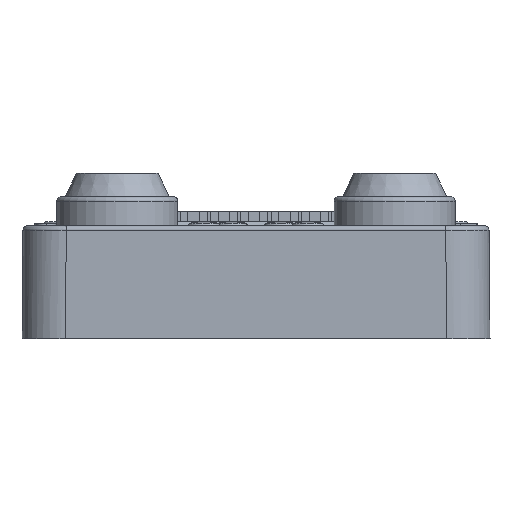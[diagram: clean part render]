
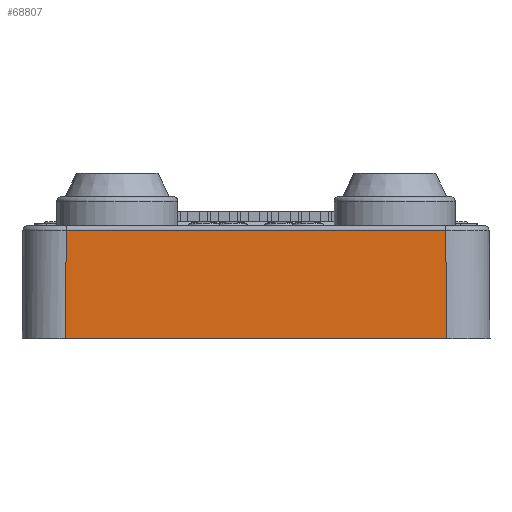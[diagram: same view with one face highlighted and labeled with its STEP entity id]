
A CAD part, left-side view. The second image highlights one B-rep face of the part: STEP entity #68807.
In plain terms, the highlighted planar face has unit normal (-1, 0, 0.009).
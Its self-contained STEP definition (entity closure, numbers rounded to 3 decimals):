
#45845=CARTESIAN_POINT('',(-101.6,22.,-13.));
#45846=VERTEX_POINT('',#45845);
#45872=CARTESIAN_POINT('',(-101.6,-22.,-13.));
#45873=VERTEX_POINT('',#45872);
#45881=CARTESIAN_POINT('',(-101.6,-22.,-13.));
#45882=DIRECTION('',(0.0,1.0,0.0));
#45883=VECTOR('',#45882,44.);
#45884=LINE('',#45881,#45883);
#45885=EDGE_CURVE('',#45873,#45846,#45884,.T.);
#64964=CARTESIAN_POINT('',(-101.491,-21.891,-0.496));
#64965=VERTEX_POINT('',#64964);
#67852=CARTESIAN_POINT('',(-101.491,21.891,-0.496));
#67853=VERTEX_POINT('',#67852);
#67854=CARTESIAN_POINT('',(-101.491,-21.891,-0.496));
#67855=DIRECTION('',(0.0,1.0,0.0));
#67856=VECTOR('',#67855,43.782);
#67857=LINE('',#67854,#67856);
#67858=EDGE_CURVE('',#64965,#67853,#67857,.T.);
#68781=CARTESIAN_POINT('',(-101.6,-22.,-13.));
#68782=DIRECTION('',(0.009,0.009,1.));
#68783=VECTOR('',#68782,12.505);
#68784=LINE('',#68781,#68783);
#68785=EDGE_CURVE('',#45873,#64965,#68784,.T.);
#68791=CARTESIAN_POINT('',(-101.6,-22.264,-13.));
#68792=DIRECTION('',(-1.,0.0,0.009));
#68793=DIRECTION('',(0.009,0.0,1.));
#68794=AXIS2_PLACEMENT_3D('',#68791,#68792,#68793);
#68795=PLANE('',#68794);
#68796=ORIENTED_EDGE('',*,*,#45885,.F.);
#68797=ORIENTED_EDGE('',*,*,#68785,.T.);
#68798=ORIENTED_EDGE('',*,*,#67858,.T.);
#68799=CARTESIAN_POINT('',(-101.6,22.,-13.));
#68800=DIRECTION('',(0.009,-0.009,1.));
#68801=VECTOR('',#68800,12.505);
#68802=LINE('',#68799,#68801);
#68803=EDGE_CURVE('',#45846,#67853,#68802,.T.);
#68804=ORIENTED_EDGE('',*,*,#68803,.F.);
#68805=EDGE_LOOP('',(#68796,#68797,#68798,#68804));
#68806=FACE_OUTER_BOUND('',#68805,.T.);
#68807=ADVANCED_FACE('',(#68806),#68795,.T.);
